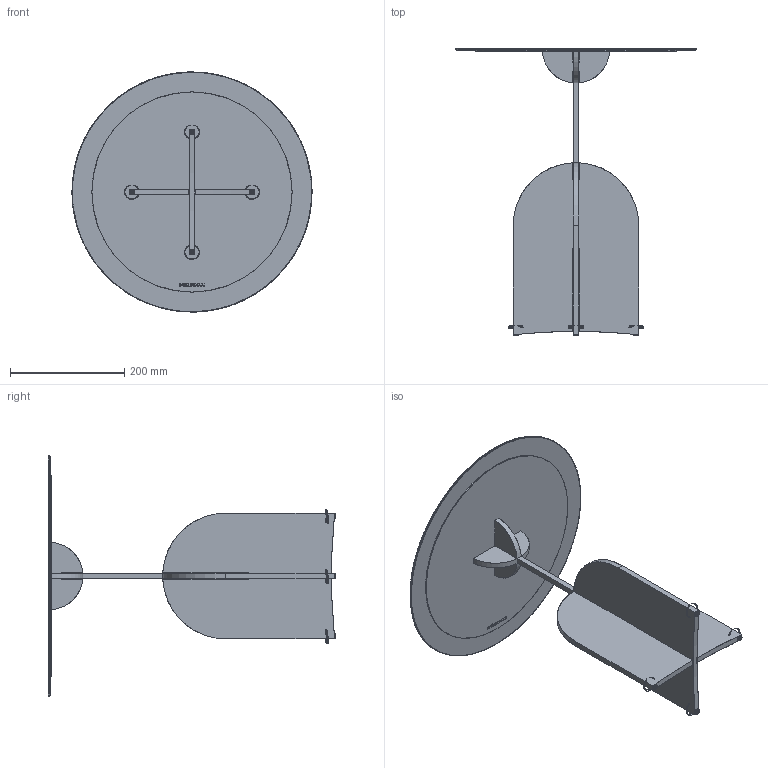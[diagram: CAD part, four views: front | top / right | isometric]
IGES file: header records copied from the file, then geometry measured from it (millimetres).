
Start section: SolidWorks IGES file using analytic representation for surfaces
Global section: file name: \\utenti\Dati Utenti\Tecnico\DC\2D - 3D per sito\3D\DeCastelli-3D-Nicola 50.igs; native system: SolidWorks 2022; preprocessor: SolidWorks 2022; author: Simonep; date: 240729.120338; units: millimetre
Bounding box: 419.93 x 502.5 x 419.85 mm (x, y, z)
Surface area: 662630.7 mm2 (no closed solid volume)
Topology: 0 solids, 0 shells, 164 faces, 2198 edges, 2194 vertices
Faces by surface type: bspline 101, revolution 63
